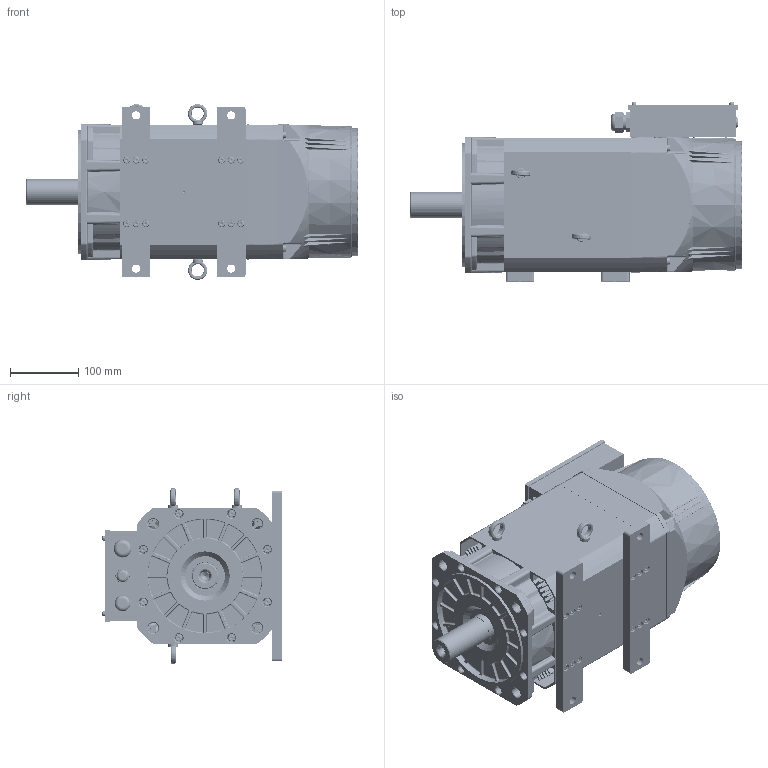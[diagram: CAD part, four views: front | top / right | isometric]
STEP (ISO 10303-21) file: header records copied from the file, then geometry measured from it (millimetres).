
FILE_DESCRIPTION (( 'STEP AP203' ), '1' );
FILE_NAME ('200M-B35-38J俋倛芞.STEP', '2021-01-12T03:09:48', ( '' ), ( '' ), 'SwSTEP 2.0', 'SolidWorks 2016', '' );
FILE_SCHEMA (( 'CONFIG_CONTROL_DESIGN' ));
Length unit declared in the file: millimetre
Products named in the file (57): 200諉盄翐; 晤鎢ん橈埽翐; 200M-B35-38J俋倛芞; 200諉盄碟裔躇猾菜; 200滅鳥欶; 嫖萇晤鎢ん; hex socket set screws with cone point gb_GB_FASTENER_SCREWS_HSCP M6X6-N; 200瑤脣ヶ堤盄諉盄碟; circlips for shaft--type b gb_GB_CONNECTING_PIECE_RINGS_CSB 30; hex lobular socket head cap screws-8.8 gb_GB_HEXAGON_TYPE22 M6X16-N; 180-200諉盄碟躇猾菜; spring lock washers--normal type gb_GB_FASTENER_WASHER_SW 5; 200M儂褲; socket head cap screw_am_B18.3.1M - 4 x 0.7 x 20 Hex SHCS -- 20NHX; 200S蛌赽窒璃; deep groove ball bearings gb_Rolling bearings 6306 GB 276-94; 晤鎢ん隅砱梓ワ; 200粣3.7kw; 200S隅赽窒璃; 晤鎢ん啣; 200S隅赽軞傖; M16X1.5蹟杶; 200粣創揤裔; deep groove ball bearings gb_Rolling bearings 6308 GB 276-94; socket head cap screw_am_B18.3.1M - 3 x 0.5 x 8 Hex SHCS -- 8NHX; M24X1.5蹟杶; hex lobular socket head cap screws-4.8 gb_GB_HEXAGON_TYPE21 M6X30-30-N; 瑞儂瑞欶窒璃; 200諉盄碟窒璃; flat washer regular_am_B18.22M - Plain washer, 4 mm, regular; 200菁褐; cross recessed pan head screws gb_GB_CROSS_SCREWS_TYPE1 M4X5-5  H type-N; cross recessed pan head screws gb_GB_CROSS_SCREWS_TYPE1 M3X12-12  H type-N; hex lobular socket head cap screws-4.8 gb_GB_HEXAGON_TYPE21 M6X25-25-N; spring lock washers--normal type gb_GB_FASTENER_WASHER_SW 4; pan cross head_am_B18.6.7M - M4 x 0.7 x 8 Type I Cross Recessed PHMS --8N; 200S翉臏蛌赽; 200风机过线圈; M8X12裂遠; spring lock washers--normal type gb_GB_FASTENER_WASHER_SW 6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
Assembly tree (153 placements, depth 3):
  200M-B35-38J俋倛芞
    200M儂褲
    200S隅赽窒璃
      200S隅赽軞傖
      200S隅赽諶え  x6
    200ヶ裔-171102
    hex lobular socket head cap screws-4.8 gb_GB_HEXAGON_TYPE21 M6X30-30-N  x8
    spring lock washers--normal type gb_GB_FASTENER_WASHER_SW 6  x28
    200菁褐  x2
    hex lobular socket head cap screws-4.8 gb_GB_HEXAGON_TYPE21 M6X25-25-N  x12
    200S蛌赽窒璃
      200S翉臏蛌赽
    deep groove ball bearings gb_Rolling bearings 6308 GB 276-94
    deep groove ball bearings gb_Rolling bearings 6306 GB 276-94
    circlips for shaft--type b gb_GB_CONNECTING_PIECE_RINGS_CSB 30
    200粣創揤裔
    17-186 蚗艙綴裔200
    spring lock washers--normal type gb_GB_FASTENER_WASHER_SW 5  x3
    socket head cap screw_am_B18.3.1M - 5 x 0.8 x 35 Hex SHCS -- 22NHX  x3
    嫖萇晤鎢ん
    flat washer regular_am_B18.22M - Plain washer, 4 mm, regular
    spring lock washers--normal type gb_GB_FASTENER_WASHER_SW 4
    socket head cap screw_am_B18.3.1M - 4 x 0.7 x 20 Hex SHCS -- 20NHX
    spring lock washers--normal type gb_GB_FASTENER_WASHER_SW 3  x2
    socket head cap screw_am_B18.3.1M - 3 x 0.5 x 8 Hex SHCS -- 8NHX  x2
    200滅鳥欶
    pan cross head_am_B18.6.7M - M4 x 0.7 x 8 Type I Cross Recessed PHMS --8N  x4
    hexagon socket head cap screws gb_GB_FASTENER_SCREWS_HSHCS M6X30-N  x8
    瑞儂瑞欶窒璃
      200呿蹋瑞欶
      200风机（煜微180FZL-7）
      cross recessed pan head screws gb_GB_CROSS_SCREWS_TYPE1 M4X10-10  H type-N  x4
    hex lobular socket head cap screws-8.8 gb_GB_HEXAGON_TYPE22 M6X16-N  x4
    180-200諉盄碟躇猾菜
    200諉盄碟窒璃
      200瑤脣ヶ堤盄諉盄碟
      M24X1.5蹟杶
      200风机过线圈
      M20X1.5蹟杶
      M16X1.5蹟杶
      200諉盄翐
      晤鎢ん橈埽翐  x4
      晤鎢ん啣
      200諉盄碟裔躇猾菜
      200諉盄碟裔
      UVW隅砱梓ワ
      晤鎢ん隅砱梓ワ
      cross recessed cheese head screws gb_GB_CROSS_SCREWS_TYPE2 M4X10-10  H type-N  x4
      spring lock washers--normal type gb_GB_FASTENER_WASHER_SW 4  x4
      plain washers-n series-grade a gb_GB_FASTENER_WASHER_PWNA 4  x4
      cross recessed pan head screws gb_GB_CROSS_SCREWS_TYPE1 M3X12-12  H type-N  x4
      cross recessed pan head screws gb_GB_CROSS_SCREWS_TYPE1 M4X5-5  H type-N  x2
    M8X12裂遠  x3
    cross recessed pan head screws gb_GB_CROSS_SCREWS_TYPE1 M5X10-10  H type-N  x2
    plain washers-n series-grade a gb_GB_FASTENER_WASHER_PWNA 5  x2
    cross recessed small pan head screws gb_GB_CROSS_SCREWS_TYPE3 M5X10-10-N  x2
    hex socket set screws with cone point gb_GB_FASTENER_SCREWS_HSCP M6X6-N  x3
    200粣3.7kw
Bounding box: 485.5 x 262.25 x 257 mm (x, y, z)
Volume: 7637353.1 mm3; surface area: 2158856.5 mm2
Topology: 149 solids, 149 shells, 8124 faces, 20419 edges, 12522 vertices
Faces by surface type: plane 2529, bspline 2146, cylinder 2022, cone 981, torus 352, sphere 94
Entity records: 271132 total; most frequent: CARTESIAN_POINT 116057, ORIENTED_EDGE 33144, DIRECTION 27792, EDGE_CURVE 16572, AXIS2_PLACEMENT_3D 10967, VERTEX_POINT 10205, EDGE_LOOP 7125, ADVANCED_FACE 6599
